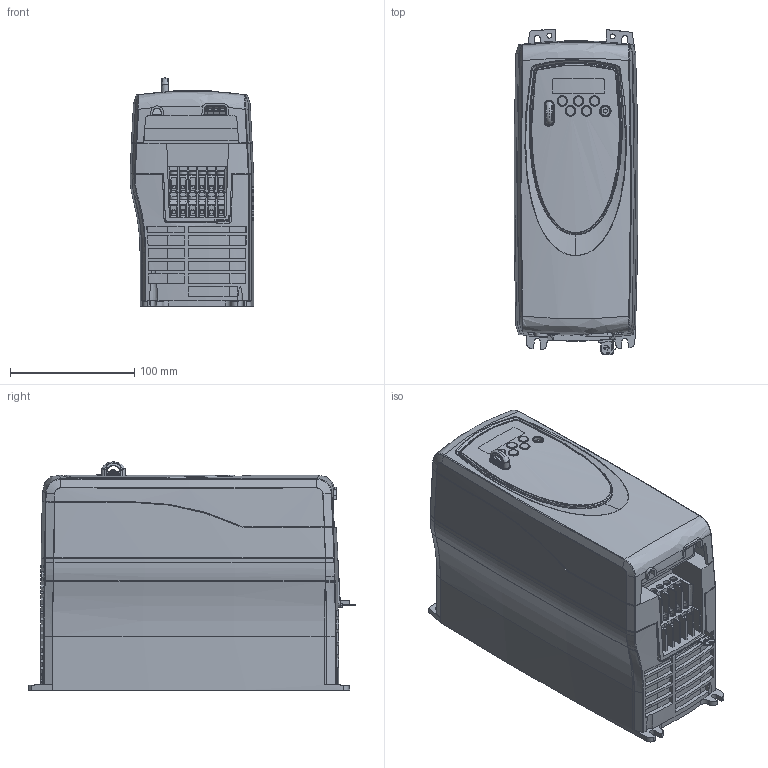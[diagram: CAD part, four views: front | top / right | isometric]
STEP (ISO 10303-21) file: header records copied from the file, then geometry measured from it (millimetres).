
FILE_DESCRIPTION((''),'2;1');
FILE_NAME('PK-SEQ-SK-C-ALL-STIC-N-OPTION','2006-12-19T',('summne01'),(''),'PRO/ENGINEER BY PARAMETRIC TECHNOLOGY CORPORATION, 2006320','PRO/ENGINEER BY PARAMETRIC TECHNOLOGY CORPORATION, 2006320','');
FILE_SCHEMA(('CONFIG_CONTROL_DESIGN'));
Length unit declared in the file: millimetre
Products named in the file (1): PK-SEQ-SK-C-ALL-STIC-N-OPTION
Bounding box: 99.9 x 262.71 x 183.98 mm (x, y, z)
Surface area: 433364.4 mm2 (no closed solid volume)
Topology: 0 solids, 233 shells, 2522 faces, 9818 edges, 7268 vertices
Faces by surface type: plane 1649, cylinder 603, bspline 156, cone 74, torus 34, extrusion 3, sphere 3
Entity records: 117355 total; most frequent: CARTESIAN_POINT 40376, ORIENTED_EDGE 15108, DIRECTION 13849, EDGE_CURVE 9818, VERTEX_POINT 7268, VECTOR 6563, LINE 6560, AXIS2_PLACEMENT_3D 3643
